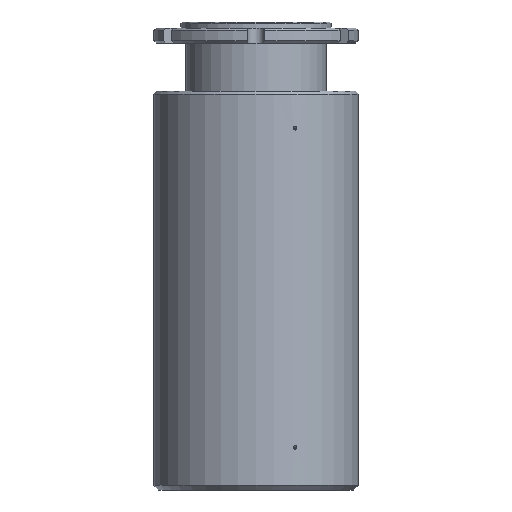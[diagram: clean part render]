
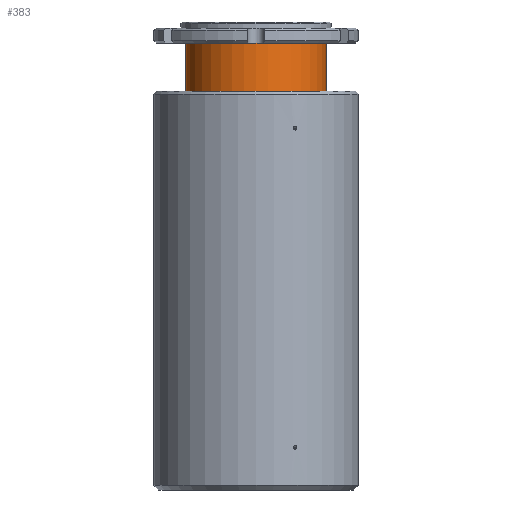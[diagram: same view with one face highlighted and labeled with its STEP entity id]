
A CAD part, front view. The second image highlights one B-rep face of the part: STEP entity #383.
In plain terms, the highlighted cylindrical face has radius 37.084 mm (diameter 74.168 mm), a partial arc.
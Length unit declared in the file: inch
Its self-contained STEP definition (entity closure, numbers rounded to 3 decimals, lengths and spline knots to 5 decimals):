
#383 = ADVANCED_FACE ( 'NONE', ( #2065 ), #2064, .T. ) ;
#444 = EDGE_CURVE ( 'NONE', #4482, #4523, #11363, .T. ) ;
#769 = EDGE_CURVE ( 'NONE', #4512, #4477, #3864, .T. ) ;
#935 = EDGE_CURVE ( 'NONE', #4512, #4482, #7383, .T. ) ;
#1036 = EDGE_CURVE ( 'NONE', #4477, #4523, #8073, .T. ) ;
#2063 = DIRECTION ( 'NONE',  ( 0., 0., 1. ) ) ;
#2064 = CYLINDRICAL_SURFACE ( 'NONE', #6561, 1.46 ) ;
#2065 = FACE_OUTER_BOUND ( 'NONE', #4877, .T. ) ;
#2066 = CARTESIAN_POINT ( 'NONE',  ( 0., 0., 0. ) ) ;
#2068 = DIRECTION ( 'NONE',  ( 1., 0., 0. ) ) ;
#3716 = VECTOR ( 'NONE', #8105, 39.37008 ) ;
#3793 = AXIS2_PLACEMENT_3D ( 'NONE', #9970, #9971, #9972 ) ;
#3864 = CIRCLE ( 'NONE', #3793, 1.46 ) ;
#4477 = VERTEX_POINT ( 'NONE', #8525 ) ;
#4482 = VERTEX_POINT ( 'NONE', #8530 ) ;
#4512 = VERTEX_POINT ( 'NONE', #8560 ) ;
#4523 = VERTEX_POINT ( 'NONE', #8571 ) ;
#4877 = EDGE_LOOP ( 'NONE', ( #6364, #6452, #6360, #6367 ) ) ;
#5239 = CARTESIAN_POINT ( 'NONE',  ( 0., 0., -0.437 ) ) ;
#5240 = DIRECTION ( 'NONE',  ( 0., 0., 1. ) ) ;
#5241 = DIRECTION ( 'NONE',  ( 1., 0., 0. ) ) ;
#6360 = ORIENTED_EDGE ( 'NONE', *, *, #1036, .T. ) ;
#6364 = ORIENTED_EDGE ( 'NONE', *, *, #935, .F. ) ;
#6367 = ORIENTED_EDGE ( 'NONE', *, *, #444, .F. ) ;
#6452 = ORIENTED_EDGE ( 'NONE', *, *, #769, .T. ) ;
#6561 = AXIS2_PLACEMENT_3D ( 'NONE', #2066, #2063, #2068 ) ;
#7383 = LINE ( 'NONE', #7384, #11253 ) ;
#7384 = CARTESIAN_POINT ( 'NONE',  ( -1.46, 0., 0. ) ) ;
#7391 = DIRECTION ( 'NONE',  ( 0., 0., 1. ) ) ;
#8073 = LINE ( 'NONE', #8104, #3716 ) ;
#8104 = CARTESIAN_POINT ( 'NONE',  ( 1.46, 0., 0. ) ) ;
#8105 = DIRECTION ( 'NONE',  ( 0., 0., 1. ) ) ;
#8525 = CARTESIAN_POINT ( 'NONE',  ( 1.46, 0., -1.43705 ) ) ;
#8530 = CARTESIAN_POINT ( 'NONE',  ( -1.46, 0., -0.437 ) ) ;
#8560 = CARTESIAN_POINT ( 'NONE',  ( -1.46, 0., -1.43705 ) ) ;
#8571 = CARTESIAN_POINT ( 'NONE',  ( 1.46, 0., -0.437 ) ) ;
#9970 = CARTESIAN_POINT ( 'NONE',  ( 0., 0., -1.43705 ) ) ;
#9971 = DIRECTION ( 'NONE',  ( 0., 0., 1. ) ) ;
#9972 = DIRECTION ( 'NONE',  ( 1., 0., 0. ) ) ;
#11253 = VECTOR ( 'NONE', #7391, 39.37008 ) ;
#11363 = CIRCLE ( 'NONE', #11397, 1.46 ) ;
#11397 = AXIS2_PLACEMENT_3D ( 'NONE', #5239, #5240, #5241 ) ;
